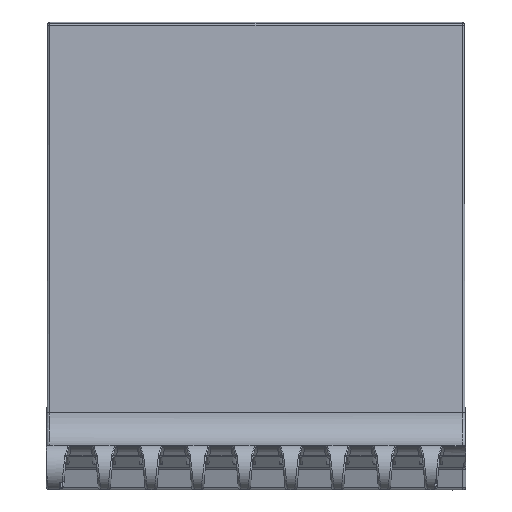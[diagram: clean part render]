
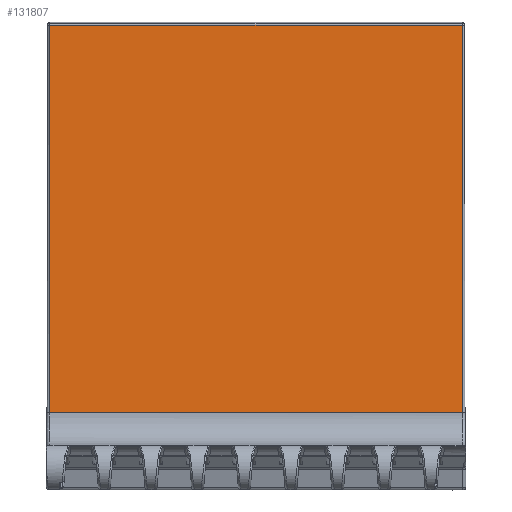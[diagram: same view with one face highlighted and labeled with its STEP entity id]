
A CAD part, top view. The second image highlights one B-rep face of the part: STEP entity #131807.
In plain terms, the highlighted planar face has unit normal (0, 0.018, 1).
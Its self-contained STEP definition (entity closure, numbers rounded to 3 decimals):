
#44956=CARTESIAN_POINT('',(-137.479,19.786,
5.));
#44985=DIRECTION('',(1.,0.,0.));
#44986=VECTOR('',#44985,148.959);
#44987=CARTESIAN_POINT('',(-137.479,19.786,
5.));
#44988=LINE('',#44987,#44986);
#45016=CARTESIAN_POINT('',(11.479,19.786,5.));
#45079=DIRECTION('',(-0.002,-1.,0.018));
#45080=VECTOR('',#45079,139.456);
#45081=CARTESIAN_POINT('',(-137.236,159.219,
2.507));
#45082=LINE('',#45081,#45080);
#45083=DIRECTION('',(-1.,0.,0.));
#45084=VECTOR('',#45083,148.472);
#45085=CARTESIAN_POINT('',(11.236,159.219,2.507));
#45086=LINE('',#45085,#45084);
#45087=DIRECTION('',(-0.002,1.,-0.018));
#45088=VECTOR('',#45087,139.456);
#45089=CARTESIAN_POINT('',(11.479,19.786,5.));
#45090=LINE('',#45089,#45088);
#46981=VERTEX_POINT('',#44956);
#46985=CARTESIAN_POINT('',(-137.236,159.219,
2.507));
#46986=VERTEX_POINT('',#46985);
#46990=VERTEX_POINT('',#45016);
#46991=CARTESIAN_POINT('',(11.236,159.219,2.507));
#46992=VERTEX_POINT('',#46991);
#131795=CARTESIAN_POINT('',(12.25,159.631,2.5));
#131796=DIRECTION('',(0.,0.018,1.));
#131797=DIRECTION('',(0.,-1.,0.018));
#131798=AXIS2_PLACEMENT_3D('',#131795,#131796,#131797);
#131799=PLANE('',#131798);
#131800=ORIENTED_EDGE('',*,*,#131564,.F.);
#131802=ORIENTED_EDGE('',*,*,#131801,.F.);
#131803=ORIENTED_EDGE('',*,*,#131787,.F.);
#131804=ORIENTED_EDGE('',*,*,#131420,.F.);
#131805=EDGE_LOOP('',(#131800,#131802,#131803,#131804));
#131806=FACE_OUTER_BOUND('',#131805,.F.);
#131807=ADVANCED_FACE('',(#131806),#131799,.T.);
#131420=EDGE_CURVE('',#46981,#46990,#44988,.T.);
#131564=EDGE_CURVE('',#46986,#46981,#45082,.T.);
#131787=EDGE_CURVE('',#46990,#46992,#45090,.T.);
#131801=EDGE_CURVE('',#46992,#46986,#45086,.T.);
